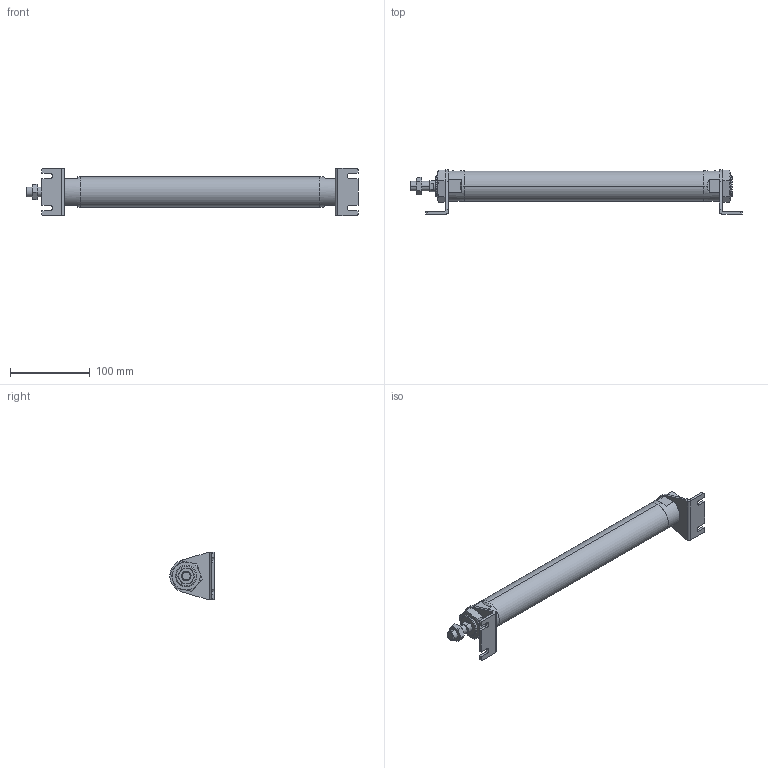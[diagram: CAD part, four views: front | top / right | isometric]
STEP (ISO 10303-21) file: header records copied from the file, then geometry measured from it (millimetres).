
FILE_DESCRIPTION (( 'STEP AP203' ), '1' );
FILE_NAME ('J#2-32-250-L.STEP', '2016-03-10T01:02:20', ( '' ), ( '' ), 'SwSTEP 2.0', 'SolidWorks 2014', '' );
FILE_SCHEMA (( 'CONFIG_CONTROL_DESIGN' ));
Length unit declared in the file: millimetre
Products named in the file (5): J#2-32-250-L; J#2-32-250; J#2-32-L
Assembly tree (6 placements, depth 2):
  J#2-32-250-L
    J#2-32-250
    (unnamed)
    (unnamed)  x2
    J#2-32-L  x2
Bounding box: 415.2 x 55.5 x 60 mm (x, y, z)
Volume: 429069.6 mm3; surface area: 69819.9 mm2
Topology: 6 solids, 6 shells, 170 faces, 404 edges, 249 vertices
Faces by surface type: plane 71, cylinder 48, torus 36, cone 15
Entity records: 4479 total; most frequent: CARTESIAN_POINT 1189, DIRECTION 578, ORIENTED_EDGE 558, EDGE_CURVE 279, AXIS2_PLACEMENT_3D 232, VERTEX_POINT 173, EDGE_LOOP 134, FACE_OUTER_BOUND 121
